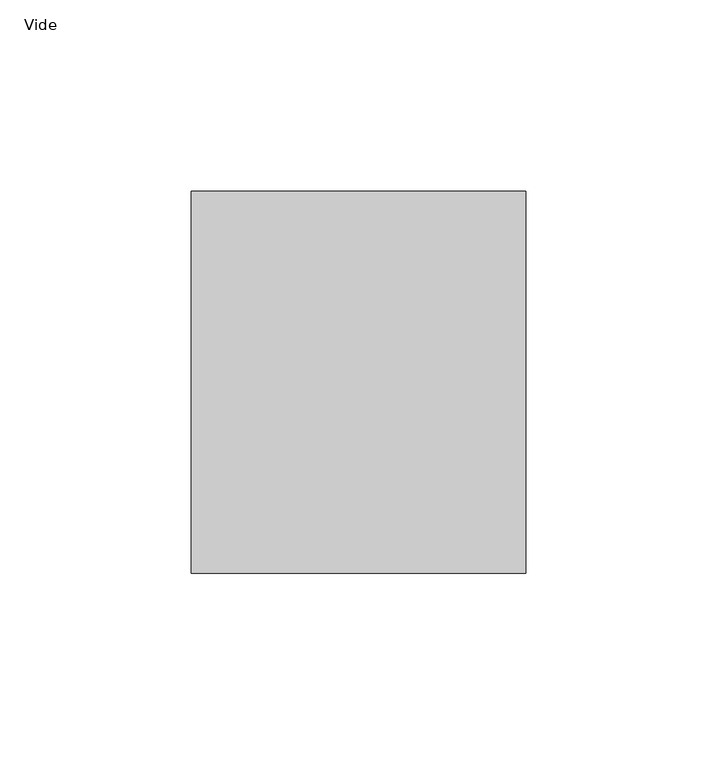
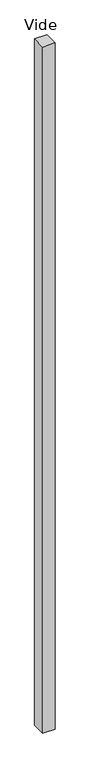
"""IFC4 building model written with IfcOpenShell, lengths in millimetres: plate geometry, Panneau système vide : Vide."""

from ifc_helpers import new_model, si_unit, origin, origin_with_axes, place, context, project, spatial, polyline, outline, extrude, source, transform, mapped, element, save


def vide_3ddd8d71(model_context):
    return source(origin(), model_context, "Body", "SweptSolid", [
        extrude(outline(polyline([(43.7802871, 50.0), (-43.7802871, 50.0), (-43.7802871, 150.0), (43.7802871, 150.0), (43.7802871, 50.0)])), origin_with_axes(), (0.0, 0.0, 1.0), 5176.3809021),
    ])


if __name__ == "__main__":
    model = new_model("IFC4")
    model_context = context("Model", 3, world=origin())
    ifc_project = project(units=[si_unit("LENGTHUNIT", "METRE", prefix="MILLI")], contexts=[model_context])
    site = spatial("IfcSite", under=ifc_project)
    building = spatial("IfcBuilding", under=site)
    placement = place(None, origin())
    vide_shape = vide_3ddd8d71(model_context)
    element("IfcPlate", 1, ObjectType="Panneau système vide : Vide", at=placement, inside=building, context=model_context, shape_type="MappedRepresentation", body=[
        mapped(vide_shape, transform((0.0, 0.0, 0.0), x_axis=(1.0, 0.0, 0.0), y_axis=(0.0, 1.0, 0.0), z_axis=(0.0, 0.0, 1.0))),
    ])
    save(model, "model.ifc")
